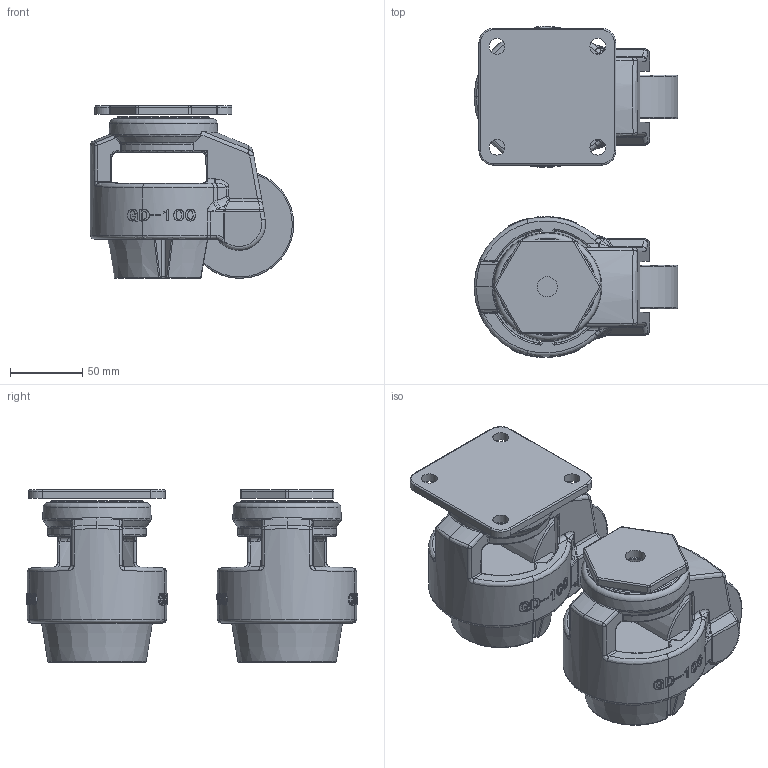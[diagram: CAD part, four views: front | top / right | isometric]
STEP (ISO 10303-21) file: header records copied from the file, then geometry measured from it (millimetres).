
FILE_DESCRIPTION(/* description */ (''),/* implementation_level */ '2;1');
FILE_NAME(/* name */ '8.7-100.stp',/* time_stamp */ '2019-08-17T10:17:20+08:00',/* author */ (''),/* organization */ (''),/* preprocessor_version */ 'ST-DEVELOPER v16',/* originating_system */ 'SIEMENS PLM Software NX 10.0',/* authorisation */ '');
FILE_SCHEMA (('AUTOMOTIVE_DESIGN { 1 0 10303 214 3 1 1 1 }'));
Length unit declared in the file: millimetre
Products named in the file (1): Admi11D05DBEcxl5
Bounding box: 141.28 x 229.88 x 120 mm (x, y, z)
Volume: 1153703.9 mm3; surface area: 210729.4 mm2
Topology: 8 solids, 8 shells, 1045 faces, 2609 edges, 1562 vertices
Faces by surface type: cylinder 311, plane 240, bspline 216, extrusion 124, torus 68, sphere 52, cone 26, revolution 8
Full cylindrical faces by diameter (mm): 11 x4, 14 x1, 75 x2
Entity records: 39302 total; most frequent: CARTESIAN_POINT 16964, ORIENTED_EDGE 5056, DIRECTION 3900, EDGE_CURVE 2528, VERTEX_POINT 1550, AXIS2_PLACEMENT_3D 1468, EDGE_LOOP 1130, ADVANCED_FACE 1045
